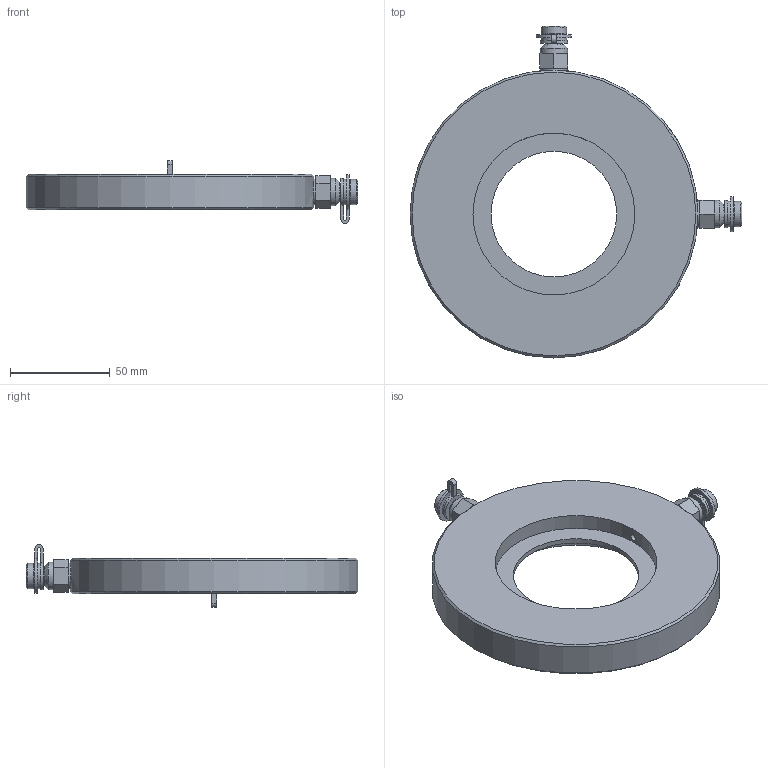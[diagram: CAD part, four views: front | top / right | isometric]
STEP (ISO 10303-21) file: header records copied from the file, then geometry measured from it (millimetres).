
FILE_DESCRIPTION((''),'2;1');
FILE_NAME('P:\Fastrack\53972_CRANE 3D\Workspace\DM900_DN80\DM900_DN80.stp','2010-12-23T10:03:42',('btaylor'),(''),'Autodesk Inventor 2008','Autodesk Inventor 2008','');
FILE_SCHEMA(('AUTOMOTIVE_DESIGN { 1 0 10303 214 1 1 1 1 }'));
Length unit declared in the file: millimetre
Products named in the file (1): DM900_DN80
Bounding box: 166.1 x 166.1 x 31.45 mm (x, y, z)
Volume: 211471.7 mm3; surface area: 42004.5 mm2
Topology: 1 solids, 1 shells, 103 faces, 231 edges, 149 vertices
Faces by surface type: plane 48, cylinder 29, bspline 18, cone 8
Full cylindrical faces by diameter (mm): 3.2 x2, 7.4 x2, 11 x2, 12.7 x2, 13.7 x2, 62.87 x1, 81 x2, 144 x1
Entity records: 7559 total; most frequent: CARTESIAN_POINT 5328, ORIENTED_EDGE 392, DIRECTION 390, EDGE_CURVE 196, EDGE_LOOP 152, AXIS2_PLACEMENT_3D 150, VERTEX_POINT 138, STYLED_ITEM 104
